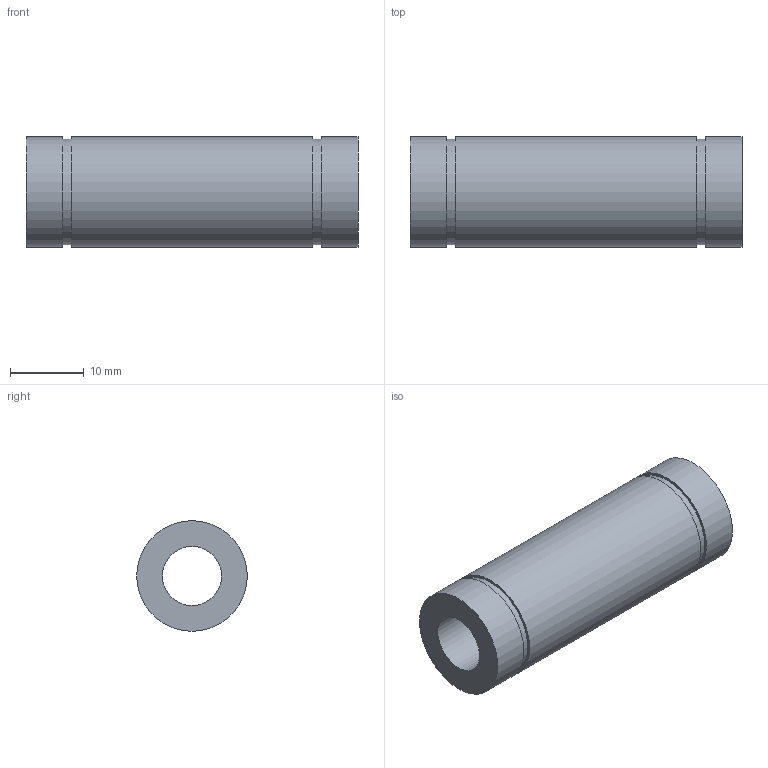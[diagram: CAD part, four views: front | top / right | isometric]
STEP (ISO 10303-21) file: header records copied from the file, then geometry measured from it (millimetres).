
FILE_DESCRIPTION(/* description */ ('Unknown'),/* implementation_level */ '2;1');
FILE_NAME(/* name */ 'LM8LUU',/* time_stamp */ '2025-02-03T14:51:34+08:00',/* author */ ('Unknown'),/* organization */ ('Unknown'),/* preprocessor_version */ 'ST-DEVELOPER v18.102',/* originating_system */ 'Solid Edge',/* authorisation */ 'Unknown');
FILE_SCHEMA (('AUTOMOTIVE_DESIGN {1 0 10303 214 3 1 1}'));
Length unit declared in the file: millimetre
Products named in the file (1): LM8LUU
Bounding box: 45 x 15 x 15 mm (x, y, z)
Volume: 5654.8 mm3; surface area: 3564 mm2
Topology: 1 solids, 1 shells, 12 faces, 20 edges, 14 vertices
Faces by surface type: cylinder 6, plane 6
Full cylindrical faces by diameter (mm): 8 x1, 14.3 x2, 15 x3
Entity records: 278 total; most frequent: DIRECTION 50, CARTESIAN_POINT 37, AXIS2_PLACEMENT_3D 25, ORIENTED_EDGE 24, EDGE_LOOP 24, FACE_BOUND 24, EDGE_CURVE 12, VERTEX_POINT 12
